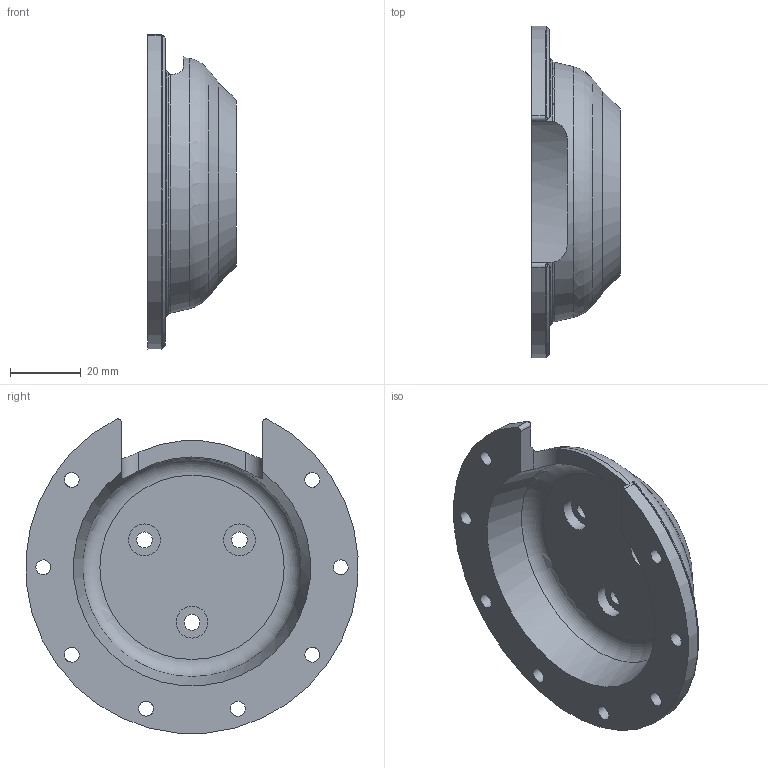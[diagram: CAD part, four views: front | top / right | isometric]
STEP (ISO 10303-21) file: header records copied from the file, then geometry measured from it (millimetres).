
FILE_DESCRIPTION(/* description */ ('STEP AP242 Edition 2','CAx-IF Rec.Pracs.---Representation and Presentation of Product Manufacturing Information (PMI)---4.0---2014-10-13','CAx-IF Rec.Pracs.---3D Tessellated Geometry---0.4---2014-09-14','2;1','CAx-IF Rec.Pracs.---User Defined Attributes---1.5---2016-08-15'),/* implementation_level */ '2;1');
FILE_NAME(/* name */ 'Tarok - Total Assemply - Hip Knee Connector',/* time_stamp */ '2026-05-23T09:32:38Z',/* author */ (''),/* organization */ (''),/* preprocessor_version */ 'ST-DEVELOPER v20',/* originating_system */ 'ONSHAPE BY PTC INC, 1.215',/* authorisation */ ' ');
FILE_SCHEMA (('AP242_MANAGED_MODEL_BASED_3D_ENGINEERING_MIM_LF { 1 0 10303 442 3 1 4 }'));
Length unit declared in the file: metre
Products named in the file (1): Hip Knee Connector
Bounding box: 25 x 93.81 x 88.75 mm (x, y, z)
Volume: 48608.1 mm3; surface area: 19126.6 mm2
Topology: 1 solids, 1 shells, 59 faces, 144 edges, 94 vertices
Faces by surface type: cylinder 22, plane 16, cone 14, torus 5, bspline 2
Full cylindrical faces by diameter (mm): 4.2 x8, 4.5 x6, 9 x3
Entity records: 1646 total; most frequent: CARTESIAN_POINT 365, DIRECTION 262, ORIENTED_EDGE 208, AXIS2_PLACEMENT_3D 124, EDGE_LOOP 119, FACE_BOUND 119, EDGE_CURVE 104, VERTEX_POINT 85
